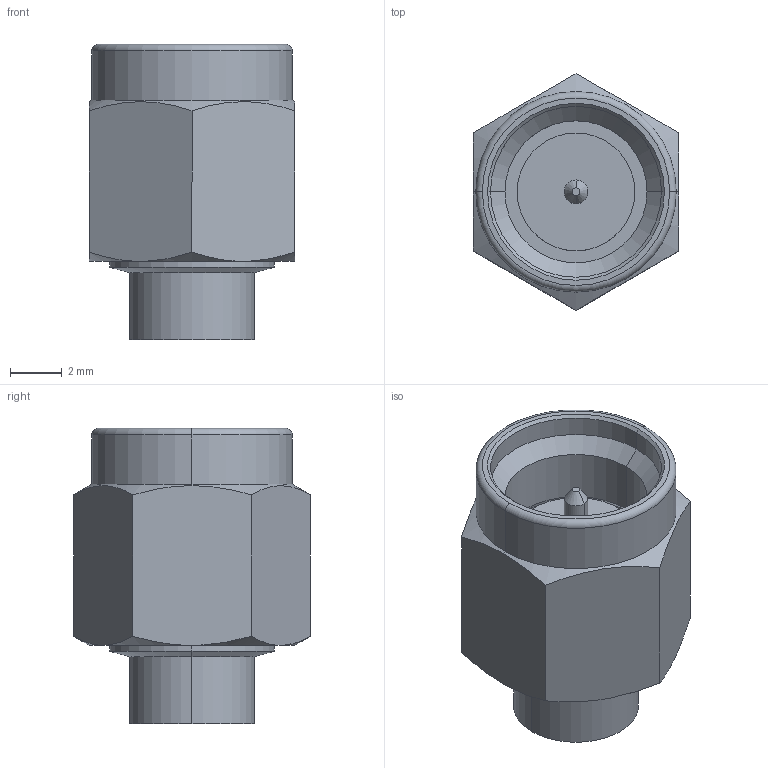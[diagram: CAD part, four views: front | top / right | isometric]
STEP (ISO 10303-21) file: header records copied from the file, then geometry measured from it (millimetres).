
FILE_DESCRIPTION (( 'STEP AP214' ), '1' );
FILE_NAME ('2906-6002.STEP', '2015-12-02T15:18:25', ( '' ), ( '' ), 'SwSTEP 2.0', 'SolidWorks 2015', '' );
FILE_SCHEMA (( 'AUTOMOTIVE_DESIGN' ));
Length unit declared in the file: inch
Products named in the file (1): 2906-6002
Bounding box: 7.92 x 9.15 x 11.4 mm (x, y, z)
Volume: 376.6 mm3; surface area: 537.4 mm2
Topology: 1 solids, 1 shells, 56 faces, 122 edges, 74 vertices
Faces by surface type: cylinder 20, cone 20, plane 14, torus 2
Entity records: 2362 total; most frequent: CARTESIAN_POINT 361, DIRECTION 272, ORIENTED_EDGE 244, EDGE_CURVE 122, AXIS2_PLACEMENT_3D 113, VERTEX_POINT 74, EDGE_LOOP 62, UNCERTAINTY_MEASURE_WITH_UNIT 59
